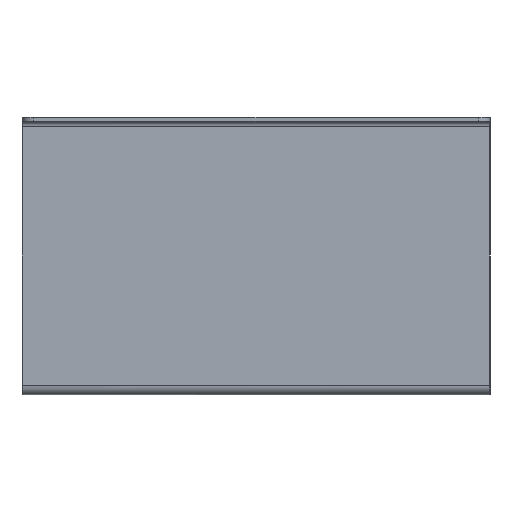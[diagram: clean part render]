
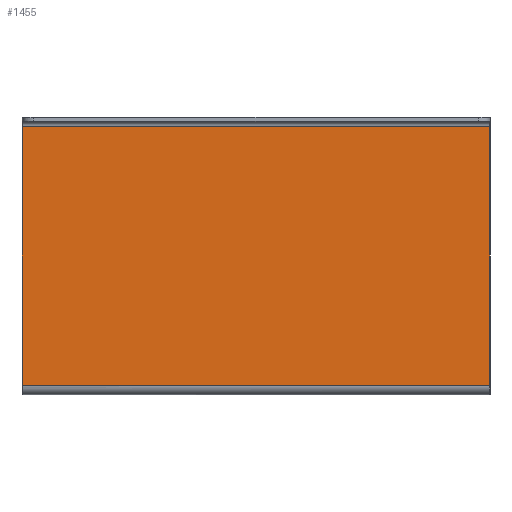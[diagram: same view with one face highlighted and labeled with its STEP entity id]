
A CAD part, front view. The second image highlights one B-rep face of the part: STEP entity #1455.
In plain terms, the highlighted planar face has unit normal (0, -1, 0).
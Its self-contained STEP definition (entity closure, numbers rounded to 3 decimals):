
#77=B_SPLINE_CURVE_WITH_KNOTS('',3,(#2402,#2403,#2404,#2405,#2406,#2407),
 .UNSPECIFIED.,.F.,.F.,(4,1,1,4),(-11.496,-8.382,-3.711,
-0.596),.UNSPECIFIED.);
#101=B_SPLINE_CURVE_WITH_KNOTS('',3,(#2932,#2933,#2934,#2935,#2936,#2937),
 .UNSPECIFIED.,.F.,.F.,(4,1,1,4),(-45.494,-42.38,-37.708,
-34.594),.UNSPECIFIED.);
#157=PLANE('',#1611);
#227=LINE('',#3852,#298);
#228=LINE('',#3854,#299);
#298=VECTOR('',#1955,10.);
#299=VECTOR('',#1958,10.);
#419=FACE_OUTER_BOUND('',#529,.T.);
#529=EDGE_LOOP('',(#1313,#1314,#1315,#1316));
#680=VERTEX_POINT('',#2330);
#682=VERTEX_POINT('',#2393);
#696=VERTEX_POINT('',#2860);
#698=VERTEX_POINT('',#2923);
#841=EDGE_CURVE('',#682,#680,#77,.T.);
#865=EDGE_CURVE('',#698,#696,#101,.T.);
#925=EDGE_CURVE('',#696,#682,#227,.T.);
#926=EDGE_CURVE('',#680,#698,#228,.T.);
#1313=ORIENTED_EDGE('',*,*,#865,.F.);
#1314=ORIENTED_EDGE('',*,*,#926,.F.);
#1315=ORIENTED_EDGE('',*,*,#841,.F.);
#1316=ORIENTED_EDGE('',*,*,#925,.F.);
#1455=ADVANCED_FACE('',(#419),#157,.T.);
#1611=AXIS2_PLACEMENT_3D('',#3853,#1956,#1957);
#1955=DIRECTION('',(1.,0.,0.));
#1956=DIRECTION('center_axis',(0.,-1.,0.));
#1957=DIRECTION('ref_axis',(0.,0.,-1.));
#1958=DIRECTION('',(-1.,0.,0.));
#2330=CARTESIAN_POINT('',(196.8,-102.,2.));
#2393=CARTESIAN_POINT('',(196.8,-102.,111.));
#2402=CARTESIAN_POINT('Ctrl Pts',(196.8,-102.,111.));
#2403=CARTESIAN_POINT('Ctrl Pts',(196.8,-102.,100.608));
#2404=CARTESIAN_POINT('Ctrl Pts',(196.8,-102.,74.674));
#2405=CARTESIAN_POINT('Ctrl Pts',(196.8,-102.,38.325));
#2406=CARTESIAN_POINT('Ctrl Pts',(196.8,-102.,12.394));
#2407=CARTESIAN_POINT('Ctrl Pts',(196.8,-102.,2.));
#2860=CARTESIAN_POINT('',(0.2,-102.,111.));
#2923=CARTESIAN_POINT('',(0.2,-102.,2.));
#2932=CARTESIAN_POINT('Ctrl Pts',(0.2,-102.,2.));
#2933=CARTESIAN_POINT('Ctrl Pts',(0.2,-102.,12.394));
#2934=CARTESIAN_POINT('Ctrl Pts',(0.2,-102.,38.323));
#2935=CARTESIAN_POINT('Ctrl Pts',(0.2,-102.,74.676));
#2936=CARTESIAN_POINT('Ctrl Pts',(0.2,-102.,100.608));
#2937=CARTESIAN_POINT('Ctrl Pts',(0.2,-102.,111.));
#3852=CARTESIAN_POINT('',(0.,-102.,111.));
#3853=CARTESIAN_POINT('Origin',(0.,-102.,-0.524));
#3854=CARTESIAN_POINT('',(0.,-102.,2.));
